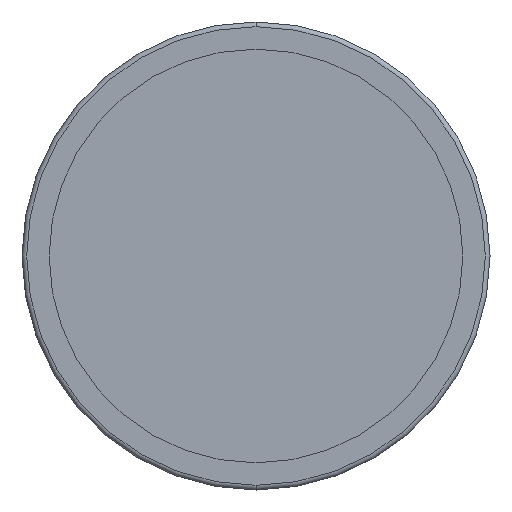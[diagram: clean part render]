
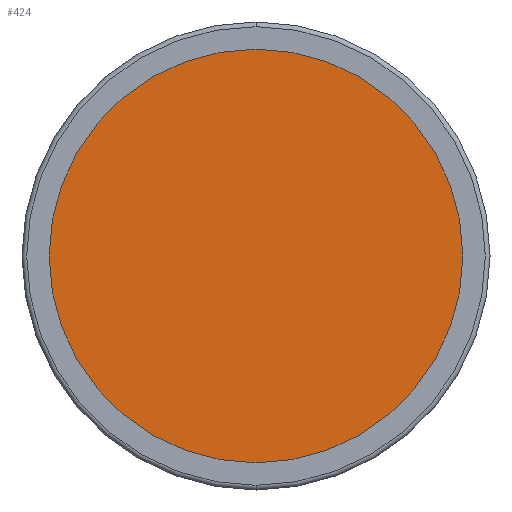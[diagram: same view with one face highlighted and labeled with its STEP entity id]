
A CAD part, front view. The second image highlights one B-rep face of the part: STEP entity #424.
In plain terms, the highlighted planar face has unit normal (0, -1, 0).
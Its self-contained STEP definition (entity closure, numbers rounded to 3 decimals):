
#15 = CARTESIAN_POINT ( 'NONE',  ( 0., -3., 0. ) ) ;
#147 = EDGE_CURVE ( 'NONE', #1173, #509, #705, .T. ) ;
#364 = CARTESIAN_POINT ( 'NONE',  ( 0., -3., 0. ) ) ;
#424 = ADVANCED_FACE ( 'NONE', ( #652 ), #454, .T. ) ;
#454 = PLANE ( 'NONE',  #2105 ) ;
#509 = VERTEX_POINT ( 'NONE', #2259 ) ;
#522 = CARTESIAN_POINT ( 'NONE',  ( 0., -3., 43.75 ) ) ;
#652 = FACE_OUTER_BOUND ( 'NONE', #931, .T. ) ;
#682 = DIRECTION ( 'NONE',  ( 0., -1., 0. ) ) ;
#705 = CIRCLE ( 'NONE', #2068, 43.75 ) ;
#787 = DIRECTION ( 'NONE',  ( 0., 1., 0. ) ) ;
#801 = ORIENTED_EDGE ( 'NONE', *, *, #147, .F. ) ;
#917 = CIRCLE ( 'NONE', #1732, 43.75 ) ;
#931 = EDGE_LOOP ( 'NONE', ( #801, #1650 ) ) ;
#1173 = VERTEX_POINT ( 'NONE', #522 ) ;
#1516 = DIRECTION ( 'NONE',  ( 0., 0., 1. ) ) ;
#1525 = EDGE_CURVE ( 'NONE', #509, #1173, #917, .T. ) ;
#1536 = DIRECTION ( 'NONE',  ( 0., 0., 1. ) ) ;
#1650 = ORIENTED_EDGE ( 'NONE', *, *, #1525, .F. ) ;
#1732 = AXIS2_PLACEMENT_3D ( 'NONE', #15, #787, #1536 ) ;
#2068 = AXIS2_PLACEMENT_3D ( 'NONE', #364, #2229, #1516 ) ;
#2105 = AXIS2_PLACEMENT_3D ( 'NONE', #2343, #682, #2160 ) ;
#2160 = DIRECTION ( 'NONE',  ( 0., 0., -1. ) ) ;
#2229 = DIRECTION ( 'NONE',  ( 0., 1., 0. ) ) ;
#2259 = CARTESIAN_POINT ( 'NONE',  ( 0., -3., -43.75 ) ) ;
#2343 = CARTESIAN_POINT ( 'NONE',  ( -43.75, -3., 0. ) ) ;
